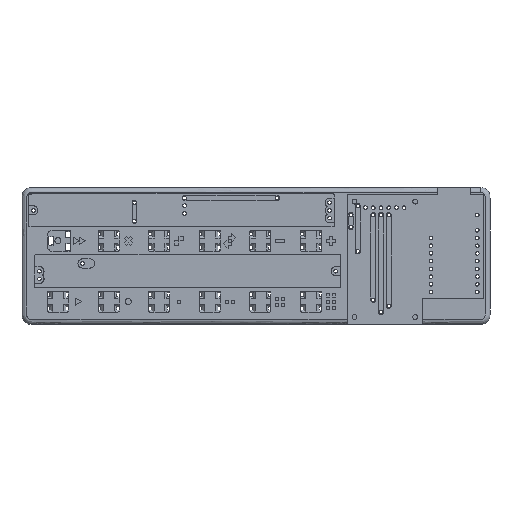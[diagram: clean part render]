
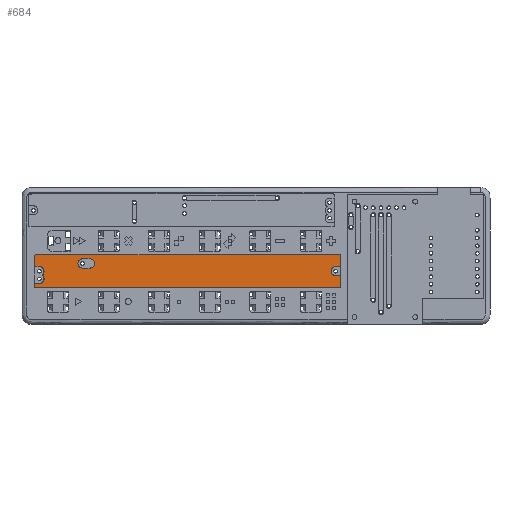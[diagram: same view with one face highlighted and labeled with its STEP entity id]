
A CAD part, top view. The second image highlights one B-rep face of the part: STEP entity #684.
In plain terms, the highlighted planar face has unit normal (0, 0, 1).
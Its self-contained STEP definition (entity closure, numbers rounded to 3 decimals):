
#120=FACE_BOUND($,#4089,.T.);
#684=ADVANCED_FACE($,(#2333,#120),#22603,.T.);
#2333=FACE_OUTER_BOUND($,#4088,.T.);
#4088=EDGE_LOOP($,(#8652,#8653,#8654,#8655,#8656));
#4089=EDGE_LOOP($,(#8657,#8658));
#8652=ORIENTED_EDGE($,*,*,#16366,.T.);
#8653=ORIENTED_EDGE($,*,*,#16360,.T.);
#8654=ORIENTED_EDGE($,*,*,#16370,.T.);
#8655=ORIENTED_EDGE($,*,*,#16374,.T.);
#8656=ORIENTED_EDGE($,*,*,#16369,.T.);
#8657=ORIENTED_EDGE($,*,*,#16380,.T.);
#8658=ORIENTED_EDGE($,*,*,#18953,.T.);
#16360=EDGE_CURVE($,#20394,#20393,#27913,.T.);
#16366=EDGE_CURVE($,#20395,#20394,#27916,.T.);
#16369=EDGE_CURVE($,#20398,#20395,#27917,.T.);
#16370=EDGE_CURVE($,#20393,#20399,#27918,.T.);
#16374=EDGE_CURVE($,#20399,#20398,#27920,.T.);
#16380=EDGE_CURVE($,#20403,#21875,#27923,.T.);
#18953=EDGE_CURVE($,#21875,#20403,#28122,.T.);
#20393=VERTEX_POINT($,#85779);
#20394=VERTEX_POINT($,#85780);
#20395=VERTEX_POINT($,#85781);
#20398=VERTEX_POINT($,#85784);
#20399=VERTEX_POINT($,#85785);
#20403=VERTEX_POINT($,#85789);
#21875=VERTEX_POINT($,#87261);
#22603=PLANE($,#28390);
#27913=(
BOUNDED_CURVE()
B_SPLINE_CURVE(2,(#50195,#50196,#50197,#50198,#50199),.UNSPECIFIED.,.F.,
.F.)
B_SPLINE_CURVE_WITH_KNOTS((3,2,3),(380.36,383.86,384.66),.UNSPECIFIED.)
CURVE()
GEOMETRIC_REPRESENTATION_ITEM()
RATIONAL_B_SPLINE_CURVE((1.,1.,1.,0.707,1.))
REPRESENTATION_ITEM($)
);
#27916=(
BOUNDED_CURVE()
B_SPLINE_CURVE(3,(#50218,#50219,#50220,#50221,#50222,#50223,#50224,#50225,
#50226,#50227,#50228,#50229,#50230),.UNSPECIFIED.,.F.,.F.)
B_SPLINE_CURVE_WITH_KNOTS((4,3,3,3,4),(-1.65,0.,2.356,
4.711,6.361),.UNSPECIFIED.)
CURVE()
GEOMETRIC_REPRESENTATION_ITEM()
RATIONAL_B_SPLINE_CURVE((1.,1.,1.,1.,0.805,0.805,
1.,0.805,0.805,1.,1.,1.,1.))
REPRESENTATION_ITEM($)
);
#27917=(
BOUNDED_CURVE()
B_SPLINE_CURVE(2,(#50235,#50236,#50237,#50238,#50239,#50240,#50241,#50242,
#50243,#50244,#50245),.UNSPECIFIED.,.F.,.F.)
B_SPLINE_CURVE_WITH_KNOTS((3,2,2,2,2,3),(254.68,255.64,256.44,373.06,373.86,
377.36),.UNSPECIFIED.)
CURVE()
GEOMETRIC_REPRESENTATION_ITEM()
RATIONAL_B_SPLINE_CURVE((1.,1.,1.,0.707,1.,1.,1.,0.707,
1.,1.,1.))
REPRESENTATION_ITEM($)
);
#27918=(
BOUNDED_CURVE()
B_SPLINE_CURVE(2,(#50246,#50247,#50248,#50249,#50250,#50251,#50252),.UNSPECIFIED.,
.F.,.F.)
B_SPLINE_CURVE_WITH_KNOTS((3,2,2,3),(128.22,244.84,245.64,249.14),.UNSPECIFIED.)
CURVE()
GEOMETRIC_REPRESENTATION_ITEM()
RATIONAL_B_SPLINE_CURVE((1.,1.,1.,0.707,1.,1.,1.))
REPRESENTATION_ITEM($)
);
#27920=(
BOUNDED_CURVE()
B_SPLINE_CURVE(3,(#50272,#50273,#50274,#50275,#50276,#50277,#50278,#50279,
#50280,#50281,#50282,#50283,#50284,#50285,#50286,#50287,#50288,#50289,#50290,
#50291,#50292,#50293),.UNSPECIFIED.,.F.,.F.)
B_SPLINE_CURVE_WITH_KNOTS((4,3,3,3,3,3,3,4),(-1.65,0.,2.356,
3.155,4.22,5.019,7.375,9.025),
.UNSPECIFIED.)
CURVE()
GEOMETRIC_REPRESENTATION_ITEM()
RATIONAL_B_SPLINE_CURVE((1.,1.,1.,1.,0.805,0.805,
1.,0.932,0.888,0.867,0.787,
0.787,0.867,0.888,0.932,
1.,0.805,0.805,1.,1.,1.,1.))
REPRESENTATION_ITEM($)
);
#27923=(
BOUNDED_CURVE()
B_SPLINE_CURVE(3,(#50312,#50313,#50314,#50315,#50316,#50317,#50318,#50319,
#50320,#50321,#50322,#50323,#50324),.UNSPECIFIED.,.F.,.F.)
B_SPLINE_CURVE_WITH_KNOTS((4,3,3,3,4),(0.,1.25,2.5,
4.856,7.211),.UNSPECIFIED.)
CURVE()
GEOMETRIC_REPRESENTATION_ITEM()
RATIONAL_B_SPLINE_CURVE((1.,1.,1.,1.,1.,1.,1.,0.805,0.805,
1.,0.805,0.805,1.))
REPRESENTATION_ITEM($)
);
#28122=(
BOUNDED_CURVE()
B_SPLINE_CURVE(3,(#59945,#59946,#59947,#59948,#59949,#59950,#59951,#59952,
#59953,#59954,#59955,#59956,#59957),.UNSPECIFIED.,.F.,.F.)
B_SPLINE_CURVE_WITH_KNOTS((4,3,3,3,4),(7.211,8.461,
9.711,12.067,14.422),.UNSPECIFIED.)
CURVE()
GEOMETRIC_REPRESENTATION_ITEM()
RATIONAL_B_SPLINE_CURVE((1.,1.,1.,1.,1.,1.,1.,0.805,0.805,
1.,0.805,0.805,1.))
REPRESENTATION_ITEM($)
);
#28390=AXIS2_PLACEMENT_3D($,#81030,#29506,$);
#29506=DIRECTION($,(0.,0.,1.));
#50195=CARTESIAN_POINT($,(104.86,19.,3.5));
#50196=CARTESIAN_POINT($,(104.86,20.75,3.5));
#50197=CARTESIAN_POINT($,(104.86,22.5,3.5));
#50198=CARTESIAN_POINT($,(104.86,22.9,3.5));
#50199=CARTESIAN_POINT($,(104.46,22.9,3.5));
#50218=CARTESIAN_POINT($,(104.86,16.,3.5));
#50219=CARTESIAN_POINT($,(104.31,16.,3.5));
#50220=CARTESIAN_POINT($,(103.76,16.,3.5));
#50221=CARTESIAN_POINT($,(103.21,16.,3.5));
#50222=CARTESIAN_POINT($,(102.331,16.,3.5));
#50223=CARTESIAN_POINT($,(101.71,16.621,3.5));
#50224=CARTESIAN_POINT($,(101.71,17.5,3.5));
#50225=CARTESIAN_POINT($,(101.71,18.379,3.5));
#50226=CARTESIAN_POINT($,(102.331,19.,3.5));
#50227=CARTESIAN_POINT($,(103.21,19.,3.5));
#50228=CARTESIAN_POINT($,(103.76,19.,3.5));
#50229=CARTESIAN_POINT($,(104.31,19.,3.5));
#50230=CARTESIAN_POINT($,(104.86,19.,3.5));
#50235=CARTESIAN_POINT($,(4.1,13.46,3.5));
#50236=CARTESIAN_POINT($,(4.1,12.98,3.5));
#50237=CARTESIAN_POINT($,(4.1,12.5,3.5));
#50238=CARTESIAN_POINT($,(4.1,12.1,3.5));
#50239=CARTESIAN_POINT($,(4.5,12.1,3.5));
#50240=CARTESIAN_POINT($,(54.48,12.1,3.5));
#50241=CARTESIAN_POINT($,(104.46,12.1,3.5));
#50242=CARTESIAN_POINT($,(104.86,12.1,3.5));
#50243=CARTESIAN_POINT($,(104.86,12.5,3.5));
#50244=CARTESIAN_POINT($,(104.86,14.25,3.5));
#50245=CARTESIAN_POINT($,(104.86,16.,3.5));
#50246=CARTESIAN_POINT($,(104.46,22.9,3.5));
#50247=CARTESIAN_POINT($,(54.48,22.9,3.5));
#50248=CARTESIAN_POINT($,(4.5,22.9,3.5));
#50249=CARTESIAN_POINT($,(4.1,22.9,3.5));
#50250=CARTESIAN_POINT($,(4.1,22.5,3.5));
#50251=CARTESIAN_POINT($,(4.1,20.75,3.5));
#50252=CARTESIAN_POINT($,(4.1,19.,3.5));
#50272=CARTESIAN_POINT($,(4.1,19.,3.5));
#50273=CARTESIAN_POINT($,(4.65,19.,3.5));
#50274=CARTESIAN_POINT($,(5.2,19.,3.5));
#50275=CARTESIAN_POINT($,(5.75,19.,3.5));
#50276=CARTESIAN_POINT($,(6.628,19.,3.5));
#50277=CARTESIAN_POINT($,(7.25,18.379,3.5));
#50278=CARTESIAN_POINT($,(7.25,17.5,3.5));
#50279=CARTESIAN_POINT($,(7.25,17.237,3.5));
#50280=CARTESIAN_POINT($,(7.182,16.976,3.5));
#50281=CARTESIAN_POINT($,(7.042,16.738,3.5));
#50282=CARTESIAN_POINT($,(6.852,16.417,3.5));
#50283=CARTESIAN_POINT($,(6.852,16.043,3.5));
#50284=CARTESIAN_POINT($,(7.042,15.722,3.5));
#50285=CARTESIAN_POINT($,(7.182,15.484,3.5));
#50286=CARTESIAN_POINT($,(7.25,15.223,3.5));
#50287=CARTESIAN_POINT($,(7.25,14.96,3.5));
#50288=CARTESIAN_POINT($,(7.25,14.081,3.5));
#50289=CARTESIAN_POINT($,(6.628,13.46,3.5));
#50290=CARTESIAN_POINT($,(5.75,13.46,3.5));
#50291=CARTESIAN_POINT($,(5.2,13.46,3.5));
#50292=CARTESIAN_POINT($,(4.65,13.46,3.5));
#50293=CARTESIAN_POINT($,(4.1,13.46,3.5));
#50312=CARTESIAN_POINT($,(22.41,18.54,3.5));
#50313=CARTESIAN_POINT($,(21.993,18.54,3.5));
#50314=CARTESIAN_POINT($,(21.576,18.54,3.5));
#50315=CARTESIAN_POINT($,(21.16,18.54,3.5));
#50316=CARTESIAN_POINT($,(20.743,18.54,3.5));
#50317=CARTESIAN_POINT($,(20.326,18.54,3.5));
#50318=CARTESIAN_POINT($,(19.91,18.54,3.5));
#50319=CARTESIAN_POINT($,(19.031,18.54,3.5));
#50320=CARTESIAN_POINT($,(18.41,19.161,3.5));
#50321=CARTESIAN_POINT($,(18.41,20.04,3.5));
#50322=CARTESIAN_POINT($,(18.41,20.919,3.5));
#50323=CARTESIAN_POINT($,(19.031,21.54,3.5));
#50324=CARTESIAN_POINT($,(19.91,21.54,3.5));
#59945=CARTESIAN_POINT($,(19.91,21.54,3.5));
#59946=CARTESIAN_POINT($,(20.326,21.54,3.5));
#59947=CARTESIAN_POINT($,(20.743,21.54,3.5));
#59948=CARTESIAN_POINT($,(21.16,21.54,3.5));
#59949=CARTESIAN_POINT($,(21.576,21.54,3.5));
#59950=CARTESIAN_POINT($,(21.993,21.54,3.5));
#59951=CARTESIAN_POINT($,(22.41,21.54,3.5));
#59952=CARTESIAN_POINT($,(23.288,21.54,3.5));
#59953=CARTESIAN_POINT($,(23.91,20.919,3.5));
#59954=CARTESIAN_POINT($,(23.91,20.04,3.5));
#59955=CARTESIAN_POINT($,(23.91,19.161,3.5));
#59956=CARTESIAN_POINT($,(23.288,18.54,3.5));
#59957=CARTESIAN_POINT($,(22.41,18.54,3.5));
#81030=CARTESIAN_POINT($,(4.1,12.1,3.5));
#85779=CARTESIAN_POINT($,(104.46,22.9,3.5));
#85780=CARTESIAN_POINT($,(104.86,19.,3.5));
#85781=CARTESIAN_POINT($,(104.86,16.,3.5));
#85784=CARTESIAN_POINT($,(4.1,13.46,3.5));
#85785=CARTESIAN_POINT($,(4.1,19.,3.5));
#85789=CARTESIAN_POINT($,(22.41,18.54,3.5));
#87261=CARTESIAN_POINT($,(19.91,21.54,3.5));
